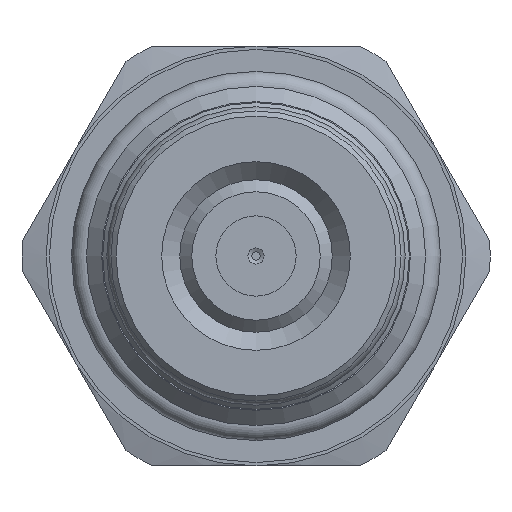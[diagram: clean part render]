
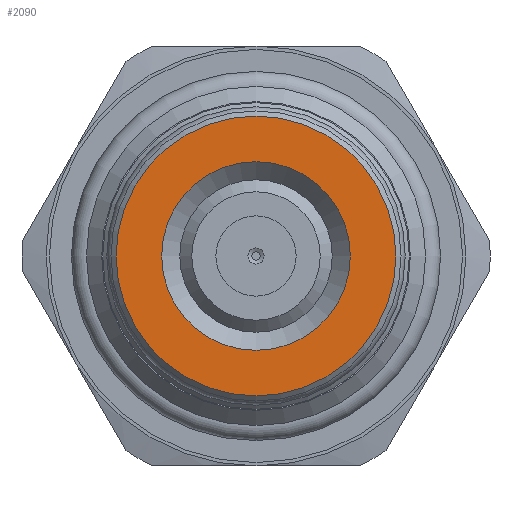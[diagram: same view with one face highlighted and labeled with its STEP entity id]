
A CAD part, left-side view. The second image highlights one B-rep face of the part: STEP entity #2090.
In plain terms, the highlighted planar face has unit normal (-1, 0, 0).
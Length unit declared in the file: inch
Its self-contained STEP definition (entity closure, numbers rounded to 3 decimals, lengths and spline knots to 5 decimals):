
#52=PLANE('',#2366);
#84=FACE_BOUND('',#426,.T.);
#285=FACE_OUTER_BOUND('',#425,.T.);
#425=EDGE_LOOP('',(#1697));
#426=EDGE_LOOP('',(#1698));
#684=CIRCLE('',#2250,0.5415);
#719=CIRCLE('',#2301,0.365);
#843=VERTEX_POINT('',#3269);
#886=VERTEX_POINT('',#3597);
#1062=EDGE_CURVE('',#843,#843,#684,.T.);
#1122=EDGE_CURVE('',#886,#886,#719,.T.);
#1697=ORIENTED_EDGE('',*,*,#1062,.T.);
#1698=ORIENTED_EDGE('',*,*,#1122,.F.);
#2090=ADVANCED_FACE('',(#285,#84),#52,.T.);
#2250=AXIS2_PLACEMENT_3D('',#3271,#2678,#2679);
#2301=AXIS2_PLACEMENT_3D('',#3599,#2793,#2794);
#2366=AXIS2_PLACEMENT_3D('',#4200,#2937,#2938);
#2678=DIRECTION('center_axis',(-1.,0.,0.));
#2679=DIRECTION('ref_axis',(0.,1.,0.));
#2793=DIRECTION('center_axis',(-1.,0.,0.));
#2794=DIRECTION('ref_axis',(0.,1.,0.));
#2937=DIRECTION('center_axis',(-1.,0.,0.));
#2938=DIRECTION('ref_axis',(0.,0.,1.));
#3269=CARTESIAN_POINT('',(17.34882,1.22828,0.));
#3271=CARTESIAN_POINT('Origin',(17.34882,1.76978,0.));
#3597=CARTESIAN_POINT('',(17.34882,1.40478,0.));
#3599=CARTESIAN_POINT('Origin',(17.34882,1.76978,0.));
#4200=CARTESIAN_POINT('Origin',(17.34882,2.22303,0.));
